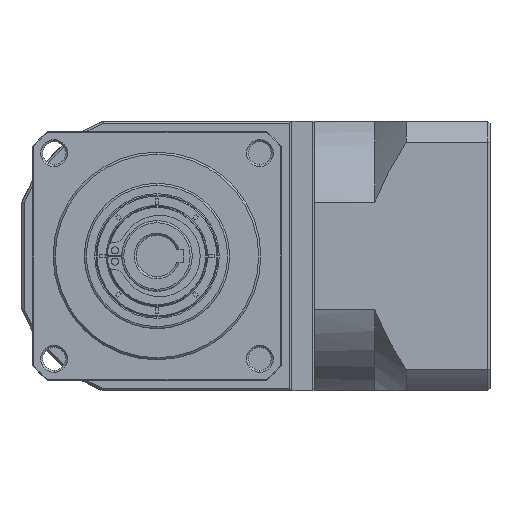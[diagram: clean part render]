
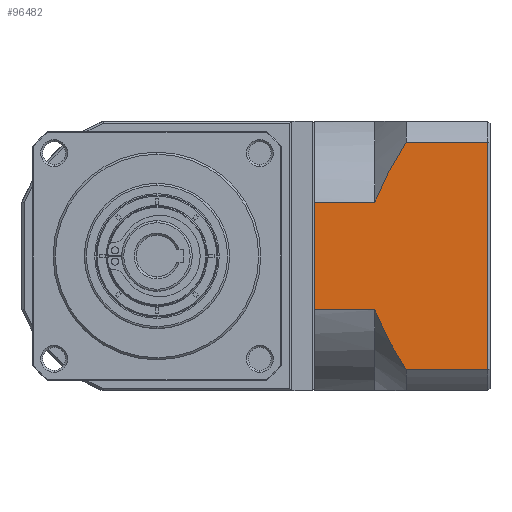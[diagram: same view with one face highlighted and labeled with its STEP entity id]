
A CAD part, left-side view. The second image highlights one B-rep face of the part: STEP entity #96482.
In plain terms, the highlighted planar face has unit normal (-1, 0, 0).
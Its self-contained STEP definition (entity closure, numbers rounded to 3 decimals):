
#3405 = VECTOR ( 'NONE', #70608, 1000. ) ;
#4532 = DIRECTION ( 'NONE',  ( 0., 0., 1. ) ) ;
#5427 = LINE ( 'NONE', #86216, #33305 ) ;
#7628 = CARTESIAN_POINT ( 'NONE',  ( -16.287, -55.413, -137.814 ) ) ;
#7725 = VECTOR ( 'NONE', #34121, 1000. ) ;
#10346 = VECTOR ( 'NONE', #138954, 1000. ) ;
#10759 = ORIENTED_EDGE ( 'NONE', *, *, #100815, .T. ) ;
#15950 = CARTESIAN_POINT ( 'NONE',  ( -16.287, -82.123, -156.042 ) ) ;
#17368 = LINE ( 'NONE', #15950, #140062 ) ;
#19492 = CARTESIAN_POINT ( 'NONE',  ( -16.287, -82.623, -156.042 ) ) ;
#19778 = EDGE_CURVE ( 'NONE', #97890, #113912, #71025, .T. ) ;
#20877 = CARTESIAN_POINT ( 'NONE',  ( -16.287, -61.689, -97.294 ) ) ;
#23927 = DIRECTION ( 'NONE',  ( 0., -1., 0. ) ) ;
#24969 = EDGE_LOOP ( 'NONE', ( #147952, #10759, #55376, #70321, #86735, #116869, #131482, #149813 ) ) ;
#31281 = CARTESIAN_POINT ( 'NONE',  ( -16.287, -62.423, -150.928 ) ) ;
#31441 = DIRECTION ( 'NONE',  ( 0., 1., 0. ) ) ;
#33305 = VECTOR ( 'NONE', #98151, 1000. ) ;
#34121 = DIRECTION ( 'NONE',  ( 0., 0., -1. ) ) ;
#35248 = AXIS2_PLACEMENT_3D ( 'NONE', #19492, #102742, #31441 ) ;
#40098 = CARTESIAN_POINT ( 'NONE',  ( -16.287, -54.923, -136.533 ) ) ;
#40801 = EDGE_CURVE ( 'NONE', #107010, #122776, #129837, .T. ) ;
#42595 = EDGE_CURVE ( 'NONE', #151867, #101414, #107910, .T. ) ;
#42634 = B_SPLINE_CURVE_WITH_KNOTS ( 'NONE', 3,
 ( #104126, #20877, #127925, #56788, #139826, #68766, #151617, #80759 ),
 .UNSPECIFIED., .F., .F.,
 ( 4, 2, 2, 4 ),
 ( 0.058, 0.062, 0.066, 0.074 ),
 .UNSPECIFIED. ) ;
#42911 = PLANE ( 'NONE',  #35248 ) ;
#43530 = CARTESIAN_POINT ( 'NONE',  ( -16.287, -56.213, -139.699 ) ) ;
#45384 = CARTESIAN_POINT ( 'NONE',  ( -16.287, -82.123, -150.928 ) ) ;
#49799 = CARTESIAN_POINT ( 'NONE',  ( -16.287, -62.423, -96.156 ) ) ;
#55376 = ORIENTED_EDGE ( 'NONE', *, *, #40801, .F. ) ;
#55486 = CARTESIAN_POINT ( 'NONE',  ( -16.287, -57.668, -142.765 ) ) ;
#56788 = CARTESIAN_POINT ( 'NONE',  ( -16.287, -59.59, -100.78 ) ) ;
#67485 = CARTESIAN_POINT ( 'NONE',  ( -16.287, -60.961, -148.66 ) ) ;
#68597 = EDGE_CURVE ( 'NONE', #151867, #113912, #5427, .T. ) ;
#68766 = CARTESIAN_POINT ( 'NONE',  ( -16.287, -57.009, -105.562 ) ) ;
#70321 = ORIENTED_EDGE ( 'NONE', *, *, #127461, .T. ) ;
#70608 = DIRECTION ( 'NONE',  ( 0., -1., 0. ) ) ;
#71025 = LINE ( 'NONE', #93986, #7725 ) ;
#79863 = CARTESIAN_POINT ( 'NONE',  ( -16.287, -54.923, -150.928 ) ) ;
#80759 = CARTESIAN_POINT ( 'NONE',  ( -16.287, -54.923, -110.552 ) ) ;
#85981 = EDGE_CURVE ( 'NONE', #93632, #101414, #136741, .T. ) ;
#86216 = CARTESIAN_POINT ( 'NONE',  ( -16.287, -54.923, -136.533 ) ) ;
#86735 = ORIENTED_EDGE ( 'NONE', *, *, #101628, .F. ) ;
#87825 = CARTESIAN_POINT ( 'NONE',  ( -16.287, -54.923, -110.552 ) ) ;
#90919 = CARTESIAN_POINT ( 'NONE',  ( -16.287, -55.161, -137.175 ) ) ;
#93246 = VECTOR ( 'NONE', #23927, 1000. ) ;
#93632 = VERTEX_POINT ( 'NONE', #45384 ) ;
#93986 = CARTESIAN_POINT ( 'NONE',  ( -16.287, -40.423, -156.042 ) ) ;
#96482 = ADVANCED_FACE ( 'NONE', ( #103528 ), #42911, .F. ) ;
#96967 = LINE ( 'NONE', #130421, #93246 ) ;
#97890 = VERTEX_POINT ( 'NONE', #110134 ) ;
#98151 = DIRECTION ( 'NONE',  ( 0., 1., 0. ) ) ;
#100815 = EDGE_CURVE ( 'NONE', #93632, #122776, #17368, .T. ) ;
#101414 = VERTEX_POINT ( 'NONE', #31281 ) ;
#101628 = EDGE_CURVE ( 'NONE', #97890, #131769, #96967, .T. ) ;
#102742 = DIRECTION ( 'NONE',  ( 1., 0., 0. ) ) ;
#102837 = CARTESIAN_POINT ( 'NONE',  ( -16.287, -54.923, -136.533 ) ) ;
#103528 = FACE_OUTER_BOUND ( 'NONE', #24969, .T. ) ;
#104126 = CARTESIAN_POINT ( 'NONE',  ( -16.287, -62.423, -96.156 ) ) ;
#107010 = VERTEX_POINT ( 'NONE', #49799 ) ;
#107910 = B_SPLINE_CURVE_WITH_KNOTS ( 'NONE', 3,
 ( #102837, #90919, #7628, #114792, #43530, #126657, #55486, #138547, #67485, #150323 ),
 .UNSPECIFIED., .F., .F.,
 ( 4, 2, 2, 2, 4 ),
 ( 0.101, 0.103, 0.105, 0.109, 0.117 ),
 .UNSPECIFIED. ) ;
#110134 = CARTESIAN_POINT ( 'NONE',  ( -16.287, -40.423, -110.552 ) ) ;
#113912 = VERTEX_POINT ( 'NONE', #133649 ) ;
#114792 = CARTESIAN_POINT ( 'NONE',  ( -16.287, -55.939, -139.075 ) ) ;
#116869 = ORIENTED_EDGE ( 'NONE', *, *, #19778, .T. ) ;
#122776 = VERTEX_POINT ( 'NONE', #123620 ) ;
#123620 = CARTESIAN_POINT ( 'NONE',  ( -16.287, -82.123, -96.156 ) ) ;
#126657 = CARTESIAN_POINT ( 'NONE',  ( -16.287, -57.063, -141.553 ) ) ;
#127461 = EDGE_CURVE ( 'NONE', #107010, #131769, #42634, .T. ) ;
#127925 = CARTESIAN_POINT ( 'NONE',  ( -16.287, -60.974, -98.445 ) ) ;
#129837 = LINE ( 'NONE', #141650, #3405 ) ;
#130421 = CARTESIAN_POINT ( 'NONE',  ( -16.287, -54.923, -110.552 ) ) ;
#131482 = ORIENTED_EDGE ( 'NONE', *, *, #68597, .F. ) ;
#131769 = VERTEX_POINT ( 'NONE', #87825 ) ;
#133649 = CARTESIAN_POINT ( 'NONE',  ( -16.287, -40.423, -136.533 ) ) ;
#136741 = LINE ( 'NONE', #79863, #10346 ) ;
#138547 = CARTESIAN_POINT ( 'NONE',  ( -16.287, -59.573, -146.346 ) ) ;
#138954 = DIRECTION ( 'NONE',  ( 0., 1., 0. ) ) ;
#139826 = CARTESIAN_POINT ( 'NONE',  ( -16.287, -58.919, -101.966 ) ) ;
#140062 = VECTOR ( 'NONE', #4532, 1000. ) ;
#141650 = CARTESIAN_POINT ( 'NONE',  ( -16.287, -54.923, -96.156 ) ) ;
#147952 = ORIENTED_EDGE ( 'NONE', *, *, #85981, .F. ) ;
#149813 = ORIENTED_EDGE ( 'NONE', *, *, #42595, .T. ) ;
#150323 = CARTESIAN_POINT ( 'NONE',  ( -16.287, -62.423, -150.928 ) ) ;
#151617 = CARTESIAN_POINT ( 'NONE',  ( -16.287, -55.865, -108.014 ) ) ;
#151867 = VERTEX_POINT ( 'NONE', #40098 ) ;
